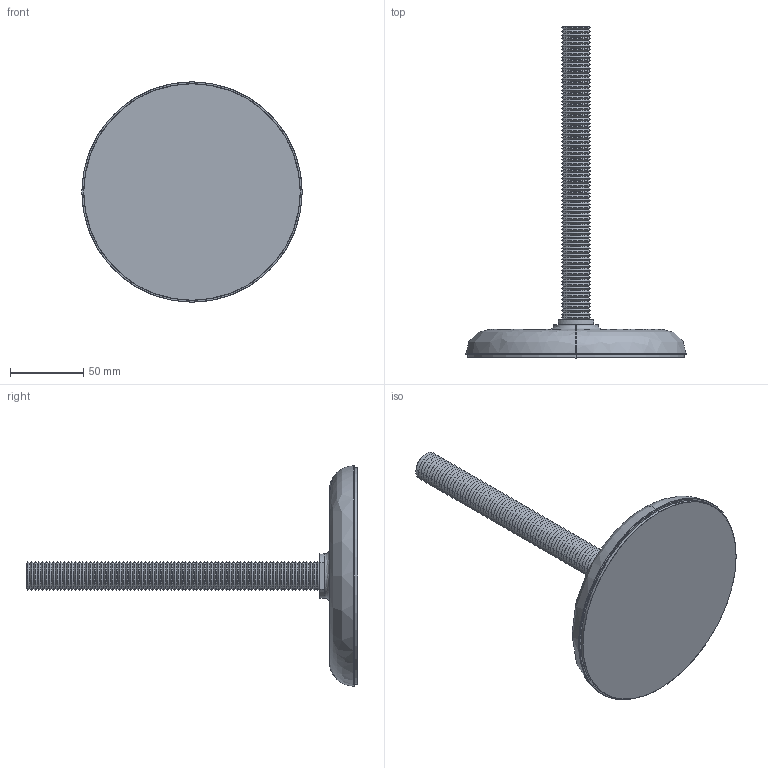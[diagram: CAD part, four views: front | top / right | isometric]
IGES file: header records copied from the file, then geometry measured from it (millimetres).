
Start section: SolidWorks IGES file using analytic representation for surfaces
Global section: file name: C:\Documents and Settings\IANO\Desktop\Temp File\Process pending\EXISTING\34780_v2\34780_v2_20170626_IGES\34780.W0202.igs; native system: SolidWorks 2009; preprocessor: SolidWorks 2009; author: IANO; date: 170626.122609; units: millimetre
Bounding box: 150 x 226 x 150 mm (x, y, z)
Surface area: 139509.5 mm2 (no closed solid volume)
Topology: 0 solids, 0 shells, 388 faces, 2498 edges, 2498 vertices
Faces by surface type: revolution 360, bspline 28
